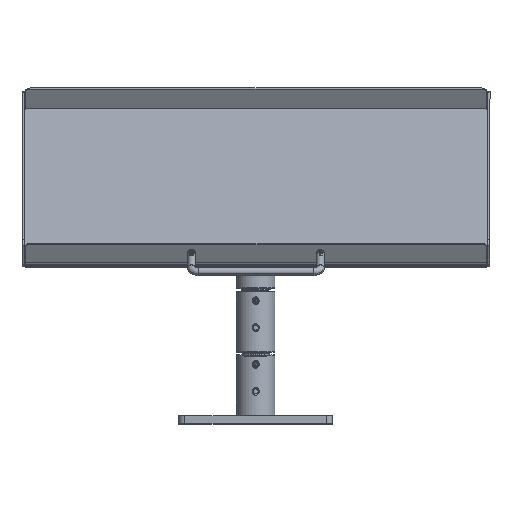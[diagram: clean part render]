
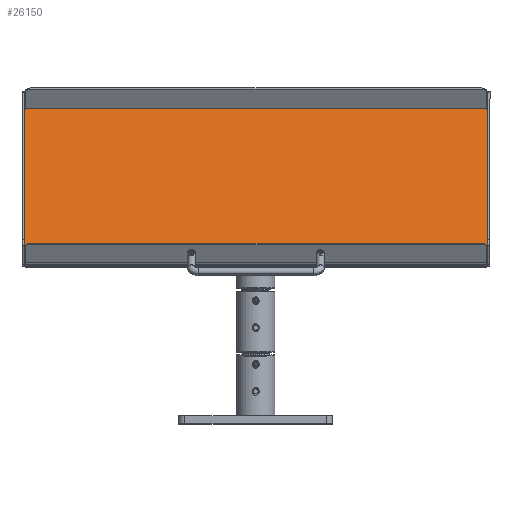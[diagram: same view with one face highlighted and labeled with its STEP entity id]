
A CAD part, top view. The second image highlights one B-rep face of the part: STEP entity #26150.
In plain terms, the highlighted planar face has unit normal (0, 0.866, 0.5) as drawn and (0, 1, 0) by its records, which use the part's own axes.
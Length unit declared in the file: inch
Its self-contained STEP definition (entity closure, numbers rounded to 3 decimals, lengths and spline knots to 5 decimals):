
#1024 = LINE ( 'NONE', #33968, #35855 ) ;
#2256 = CARTESIAN_POINT ( 'NONE',  ( -9., 0.125, -6. ) ) ;
#2350 = VERTEX_POINT ( 'NONE', #12408 ) ;
#4056 = ORIENTED_EDGE ( 'NONE', *, *, #17696, .T. ) ;
#4928 = VERTEX_POINT ( 'NONE', #12116 ) ;
#6402 = VECTOR ( 'NONE', #27547, 39.37008 ) ;
#7895 = LINE ( 'NONE', #16456, #6402 ) ;
#8965 = VERTEX_POINT ( 'NONE', #27860 ) ;
#9992 = ORIENTED_EDGE ( 'NONE', *, *, #30809, .T. ) ;
#11602 = CARTESIAN_POINT ( 'NONE',  ( 9., 0.125, -6. ) ) ;
#12116 = CARTESIAN_POINT ( 'NONE',  ( 9., 0.125, 6. ) ) ;
#12408 = CARTESIAN_POINT ( 'NONE',  ( -9., 0.125, 6. ) ) ;
#14339 = LINE ( 'NONE', #11602, #25007 ) ;
#16456 = CARTESIAN_POINT ( 'NONE',  ( 9., 0.125, 6. ) ) ;
#16570 = VECTOR ( 'NONE', #19520, 39.37008 ) ;
#17696 = EDGE_CURVE ( 'NONE', #4928, #8965, #1024, .T. ) ;
#19520 = DIRECTION ( 'NONE',  ( 0., 0., 1. ) ) ;
#19690 = EDGE_LOOP ( 'NONE', ( #9992, #24553, #4056, #34572 ) ) ;
#19933 = PLANE ( 'NONE',  #30131 ) ;
#20293 = FACE_OUTER_BOUND ( 'NONE', #19690, .T. ) ;
#22073 = LINE ( 'NONE', #27895, #16570 ) ;
#23205 = CARTESIAN_POINT ( 'NONE',  ( 0., 0.125, 0. ) ) ;
#23376 = DIRECTION ( 'NONE',  ( 0., -1., 0. ) ) ;
#24553 = ORIENTED_EDGE ( 'NONE', *, *, #35994, .T. ) ;
#24558 = EDGE_CURVE ( 'NONE', #8965, #25038, #14339, .T. ) ;
#25007 = VECTOR ( 'NONE', #25444, 39.37008 ) ;
#25038 = VERTEX_POINT ( 'NONE', #2256 ) ;
#25444 = DIRECTION ( 'NONE',  ( -1., 0., 0. ) ) ;
#26150 = ADVANCED_FACE ( 'NONE', ( #20293 ), #19933, .F. ) ;
#27547 = DIRECTION ( 'NONE',  ( 1., 0., 0. ) ) ;
#27860 = CARTESIAN_POINT ( 'NONE',  ( 9., 0.125, -6. ) ) ;
#27895 = CARTESIAN_POINT ( 'NONE',  ( -9., 0.125, -6. ) ) ;
#30131 = AXIS2_PLACEMENT_3D ( 'NONE', #23205, #23376, #31392 ) ;
#30809 = EDGE_CURVE ( 'NONE', #25038, #2350, #22073, .T. ) ;
#31392 = DIRECTION ( 'NONE',  ( 0., 0., -1. ) ) ;
#31612 = DIRECTION ( 'NONE',  ( 0., 0., -1. ) ) ;
#33968 = CARTESIAN_POINT ( 'NONE',  ( 9., 0.125, -6. ) ) ;
#34572 = ORIENTED_EDGE ( 'NONE', *, *, #24558, .T. ) ;
#35855 = VECTOR ( 'NONE', #31612, 39.37008 ) ;
#35994 = EDGE_CURVE ( 'NONE', #2350, #4928, #7895, .T. ) ;
